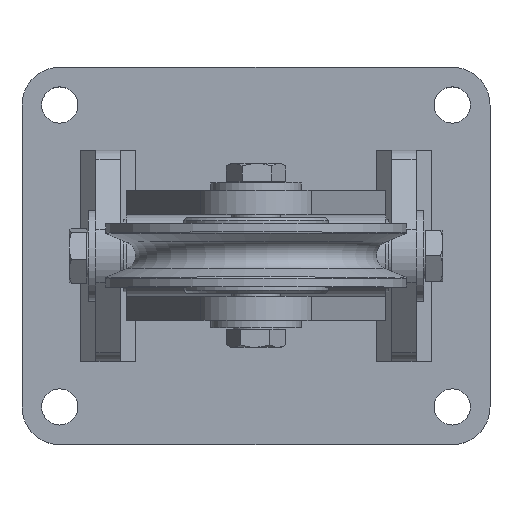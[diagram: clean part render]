
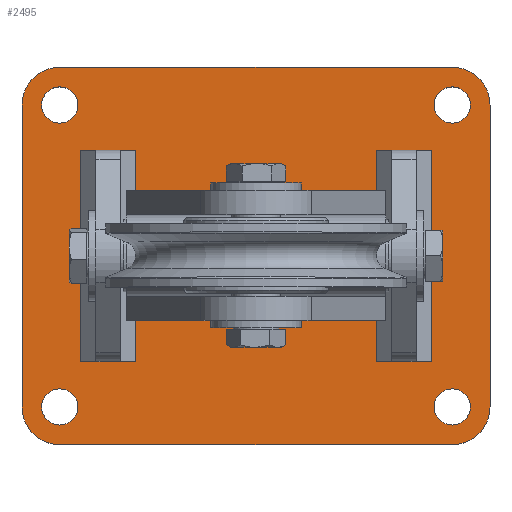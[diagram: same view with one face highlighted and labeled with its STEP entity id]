
A CAD part, top view. The second image highlights one B-rep face of the part: STEP entity #2495.
In plain terms, the highlighted planar face has unit normal (0, 0, 1).
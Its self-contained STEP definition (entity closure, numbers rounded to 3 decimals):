
#159=FACE_BOUND('',#621,.T.);
#160=FACE_BOUND('',#622,.T.);
#161=FACE_BOUND('',#623,.T.);
#162=FACE_BOUND('',#624,.T.);
#189=CIRCLE('',#2945,6.);
#190=CIRCLE('',#2946,6.);
#192=CIRCLE('',#2949,6.);
#193=CIRCLE('',#2950,6.);
#195=CIRCLE('',#2953,6.);
#196=CIRCLE('',#2954,6.);
#198=CIRCLE('',#2957,6.);
#199=CIRCLE('',#2958,6.);
#201=CIRCLE('',#2961,12.5);
#203=CIRCLE('',#2965,12.5);
#204=CIRCLE('',#2966,12.5);
#205=CIRCLE('',#2967,12.5);
#468=FACE_OUTER_BOUND('',#620,.T.);
#620=EDGE_LOOP('',(#1798,#1799,#1800,#1801,#1802,#1803,#1804,#1805));
#621=EDGE_LOOP('',(#1806,#1807));
#622=EDGE_LOOP('',(#1808,#1809));
#623=EDGE_LOOP('',(#1810,#1811));
#624=EDGE_LOOP('',(#1812,#1813));
#818=LINE('',#4257,#990);
#821=LINE('',#4263,#993);
#822=LINE('',#4267,#994);
#823=LINE('',#4271,#995);
#990=VECTOR('',#3396,10.);
#993=VECTOR('',#3401,10.);
#994=VECTOR('',#3404,10.);
#995=VECTOR('',#3407,10.);
#1144=VERTEX_POINT('',#4215);
#1145=VERTEX_POINT('',#4216);
#1147=VERTEX_POINT('',#4223);
#1148=VERTEX_POINT('',#4224);
#1150=VERTEX_POINT('',#4231);
#1151=VERTEX_POINT('',#4232);
#1153=VERTEX_POINT('',#4239);
#1154=VERTEX_POINT('',#4240);
#1156=VERTEX_POINT('',#4247);
#1157=VERTEX_POINT('',#4248);
#1160=VERTEX_POINT('',#4256);
#1162=VERTEX_POINT('',#4262);
#1163=VERTEX_POINT('',#4264);
#1164=VERTEX_POINT('',#4266);
#1165=VERTEX_POINT('',#4268);
#1166=VERTEX_POINT('',#4270);
#1390=EDGE_CURVE('',#1144,#1145,#189,.T.);
#1391=EDGE_CURVE('',#1145,#1144,#190,.T.);
#1394=EDGE_CURVE('',#1147,#1148,#192,.T.);
#1395=EDGE_CURVE('',#1148,#1147,#193,.T.);
#1398=EDGE_CURVE('',#1150,#1151,#195,.T.);
#1399=EDGE_CURVE('',#1151,#1150,#196,.T.);
#1402=EDGE_CURVE('',#1153,#1154,#198,.T.);
#1403=EDGE_CURVE('',#1154,#1153,#199,.T.);
#1406=EDGE_CURVE('',#1156,#1157,#201,.T.);
#1410=EDGE_CURVE('',#1160,#1157,#818,.T.);
#1413=EDGE_CURVE('',#1156,#1162,#821,.T.);
#1414=EDGE_CURVE('',#1163,#1162,#203,.T.);
#1415=EDGE_CURVE('',#1163,#1164,#822,.T.);
#1416=EDGE_CURVE('',#1165,#1164,#204,.T.);
#1417=EDGE_CURVE('',#1165,#1166,#823,.T.);
#1418=EDGE_CURVE('',#1160,#1166,#205,.T.);
#1798=ORIENTED_EDGE('',*,*,#1406,.F.);
#1799=ORIENTED_EDGE('',*,*,#1413,.T.);
#1800=ORIENTED_EDGE('',*,*,#1414,.F.);
#1801=ORIENTED_EDGE('',*,*,#1415,.T.);
#1802=ORIENTED_EDGE('',*,*,#1416,.F.);
#1803=ORIENTED_EDGE('',*,*,#1417,.T.);
#1804=ORIENTED_EDGE('',*,*,#1418,.F.);
#1805=ORIENTED_EDGE('',*,*,#1410,.T.);
#1806=ORIENTED_EDGE('',*,*,#1390,.T.);
#1807=ORIENTED_EDGE('',*,*,#1391,.T.);
#1808=ORIENTED_EDGE('',*,*,#1394,.T.);
#1809=ORIENTED_EDGE('',*,*,#1395,.T.);
#1810=ORIENTED_EDGE('',*,*,#1398,.T.);
#1811=ORIENTED_EDGE('',*,*,#1399,.T.);
#1812=ORIENTED_EDGE('',*,*,#1402,.T.);
#1813=ORIENTED_EDGE('',*,*,#1403,.T.);
#2407=PLANE('',#2964);
#2495=ADVANCED_FACE('',(#468,#159,#160,#161,#162),#2407,.T.);
#2945=AXIS2_PLACEMENT_3D('',#4217,#3352,#3353);
#2946=AXIS2_PLACEMENT_3D('',#4218,#3354,#3355);
#2949=AXIS2_PLACEMENT_3D('',#4225,#3361,#3362);
#2950=AXIS2_PLACEMENT_3D('',#4226,#3363,#3364);
#2953=AXIS2_PLACEMENT_3D('',#4233,#3370,#3371);
#2954=AXIS2_PLACEMENT_3D('',#4234,#3372,#3373);
#2957=AXIS2_PLACEMENT_3D('',#4241,#3379,#3380);
#2958=AXIS2_PLACEMENT_3D('',#4242,#3381,#3382);
#2961=AXIS2_PLACEMENT_3D('',#4249,#3388,#3389);
#2964=AXIS2_PLACEMENT_3D('',#4261,#3399,#3400);
#2965=AXIS2_PLACEMENT_3D('',#4265,#3402,#3403);
#2966=AXIS2_PLACEMENT_3D('',#4269,#3405,#3406);
#2967=AXIS2_PLACEMENT_3D('',#4272,#3408,#3409);
#3352=DIRECTION('center_axis',(0.,0.,-1.));
#3353=DIRECTION('ref_axis',(1.,0.,0.));
#3354=DIRECTION('center_axis',(0.,0.,-1.));
#3355=DIRECTION('ref_axis',(1.,0.,0.));
#3361=DIRECTION('center_axis',(0.,0.,-1.));
#3362=DIRECTION('ref_axis',(1.,0.,0.));
#3363=DIRECTION('center_axis',(0.,0.,-1.));
#3364=DIRECTION('ref_axis',(1.,0.,0.));
#3370=DIRECTION('center_axis',(0.,0.,-1.));
#3371=DIRECTION('ref_axis',(1.,0.,0.));
#3372=DIRECTION('center_axis',(0.,0.,-1.));
#3373=DIRECTION('ref_axis',(1.,0.,0.));
#3379=DIRECTION('center_axis',(0.,0.,-1.));
#3380=DIRECTION('ref_axis',(1.,0.,0.));
#3381=DIRECTION('center_axis',(0.,0.,-1.));
#3382=DIRECTION('ref_axis',(1.,0.,0.));
#3388=DIRECTION('center_axis',(0.,0.,-1.));
#3389=DIRECTION('ref_axis',(0.707,-0.707,0.));
#3396=DIRECTION('',(1.,0.,0.));
#3399=DIRECTION('center_axis',(0.,0.,1.));
#3400=DIRECTION('ref_axis',(1.,0.,0.));
#3401=DIRECTION('',(0.,1.,0.));
#3402=DIRECTION('center_axis',(0.,0.,-1.));
#3403=DIRECTION('ref_axis',(0.707,0.707,0.));
#3404=DIRECTION('',(-1.,0.,0.));
#3405=DIRECTION('center_axis',(0.,0.,-1.));
#3406=DIRECTION('ref_axis',(-0.707,0.707,0.));
#3407=DIRECTION('',(0.,-1.,0.));
#3408=DIRECTION('center_axis',(0.,0.,-1.));
#3409=DIRECTION('ref_axis',(-0.707,-0.707,0.));
#4215=CARTESIAN_POINT('',(71.,-50.,10.));
#4216=CARTESIAN_POINT('',(59.,-50.,10.));
#4217=CARTESIAN_POINT('Origin',(65.,-50.,10.));
#4218=CARTESIAN_POINT('Origin',(65.,-50.,10.));
#4223=CARTESIAN_POINT('',(-59.,50.,10.));
#4224=CARTESIAN_POINT('',(-71.,50.,10.));
#4225=CARTESIAN_POINT('Origin',(-65.,50.,10.));
#4226=CARTESIAN_POINT('Origin',(-65.,50.,10.));
#4231=CARTESIAN_POINT('',(71.,50.,10.));
#4232=CARTESIAN_POINT('',(59.,50.,10.));
#4233=CARTESIAN_POINT('Origin',(65.,50.,10.));
#4234=CARTESIAN_POINT('Origin',(65.,50.,10.));
#4239=CARTESIAN_POINT('',(-59.,-50.,10.));
#4240=CARTESIAN_POINT('',(-71.,-50.,10.));
#4241=CARTESIAN_POINT('Origin',(-65.,-50.,10.));
#4242=CARTESIAN_POINT('Origin',(-65.,-50.,10.));
#4247=CARTESIAN_POINT('',(77.5,-50.,10.));
#4248=CARTESIAN_POINT('',(65.,-62.5,10.));
#4249=CARTESIAN_POINT('Origin',(65.,-50.,10.));
#4256=CARTESIAN_POINT('',(-65.,-62.5,10.));
#4257=CARTESIAN_POINT('',(77.5,-62.5,10.));
#4261=CARTESIAN_POINT('Origin',(0.,0.,10.));
#4262=CARTESIAN_POINT('',(77.5,50.,10.));
#4263=CARTESIAN_POINT('',(77.5,62.5,10.));
#4264=CARTESIAN_POINT('',(65.,62.5,10.));
#4265=CARTESIAN_POINT('Origin',(65.,50.,10.));
#4266=CARTESIAN_POINT('',(-65.,62.5,10.));
#4267=CARTESIAN_POINT('',(-77.5,62.5,10.));
#4268=CARTESIAN_POINT('',(-77.5,50.,10.));
#4269=CARTESIAN_POINT('Origin',(-65.,50.,10.));
#4270=CARTESIAN_POINT('',(-77.5,-50.,10.));
#4271=CARTESIAN_POINT('',(-77.5,-62.5,10.));
#4272=CARTESIAN_POINT('Origin',(-65.,-50.,10.));
